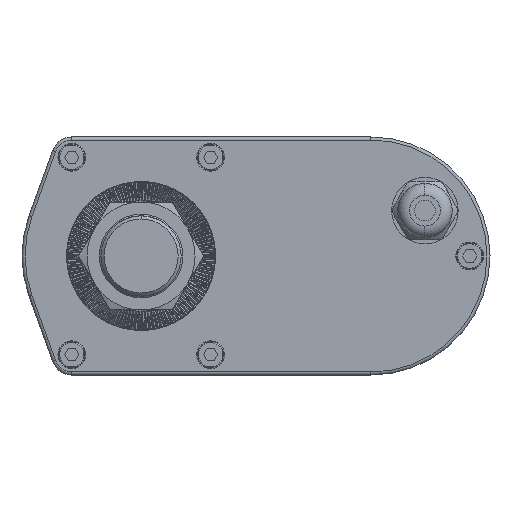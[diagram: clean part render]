
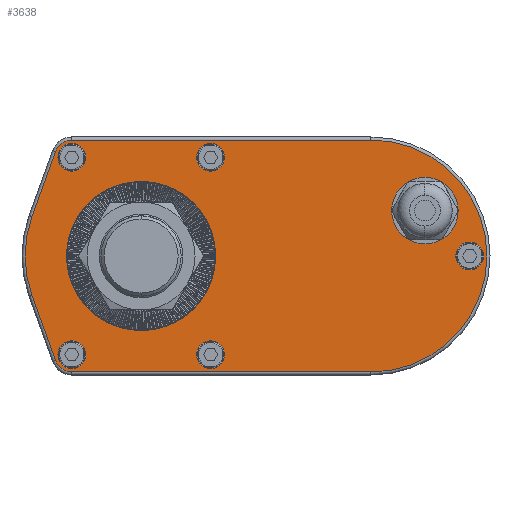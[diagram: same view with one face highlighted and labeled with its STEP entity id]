
A CAD part, left-side view. The second image highlights one B-rep face of the part: STEP entity #3638.
In plain terms, the highlighted planar face has unit normal (-1, 0, 0).
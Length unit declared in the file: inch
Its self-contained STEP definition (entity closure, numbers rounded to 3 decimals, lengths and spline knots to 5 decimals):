
#3638=ADVANCED_FACE('',(#8016,#8017,#8018,#8019,#8020,#8021,#8022,#8023),#8024,.F.);
#8016=FACE_BOUND('',#13456,.T.);
#8017=FACE_BOUND('',#13457,.T.);
#8018=FACE_BOUND('',#13458,.T.);
#8019=FACE_BOUND('',#13459,.T.);
#8020=FACE_BOUND('',#13460,.T.);
#8021=FACE_BOUND('',#13461,.T.);
#8022=FACE_BOUND('',#13462,.T.);
#8023=FACE_OUTER_BOUND('',#13463,.T.);
#8024=PLANE('',#13464);
#13456=EDGE_LOOP('',(#24506,#24507));
#13457=EDGE_LOOP('',(#24508,#24509));
#13458=EDGE_LOOP('',(#24510,#24511));
#13459=EDGE_LOOP('',(#24512,#24513));
#13460=EDGE_LOOP('',(#24514,#24515));
#13461=EDGE_LOOP('',(#24516,#24517));
#13462=EDGE_LOOP('',(#24518,#24519));
#13463=EDGE_LOOP('',(#24520,#24521,#24522,#24523,#24524,#24525,#24526,#24527));
#13464=AXIS2_PLACEMENT_3D('',#24528,#24529,#24530);
#24506=ORIENTED_EDGE('',*,*,#34107,.F.);
#24507=ORIENTED_EDGE('',*,*,#34553,.F.);
#24508=ORIENTED_EDGE('',*,*,#31562,.F.);
#24509=ORIENTED_EDGE('',*,*,#32177,.F.);
#24510=ORIENTED_EDGE('',*,*,#31020,.T.);
#24511=ORIENTED_EDGE('',*,*,#32875,.T.);
#24512=ORIENTED_EDGE('',*,*,#35045,.T.);
#24513=ORIENTED_EDGE('',*,*,#35046,.T.);
#24514=ORIENTED_EDGE('',*,*,#35047,.T.);
#24515=ORIENTED_EDGE('',*,*,#35048,.T.);
#24516=ORIENTED_EDGE('',*,*,#35049,.T.);
#24517=ORIENTED_EDGE('',*,*,#33064,.T.);
#24518=ORIENTED_EDGE('',*,*,#30860,.T.);
#24519=ORIENTED_EDGE('',*,*,#31256,.T.);
#24520=ORIENTED_EDGE('',*,*,#32792,.T.);
#24521=ORIENTED_EDGE('',*,*,#35050,.T.);
#24522=ORIENTED_EDGE('',*,*,#33319,.T.);
#24523=ORIENTED_EDGE('',*,*,#35051,.T.);
#24524=ORIENTED_EDGE('',*,*,#32673,.T.);
#24525=ORIENTED_EDGE('',*,*,#35052,.T.);
#24526=ORIENTED_EDGE('',*,*,#33905,.T.);
#24527=ORIENTED_EDGE('',*,*,#35053,.T.);
#24528=CARTESIAN_POINT('',(0.0,-2.93307,0.0));
#24529=DIRECTION('',(1.0,0.0,0.0));
#24530=DIRECTION('',(0.0,1.0,-0.0));
#30860=EDGE_CURVE('',#36754,#36758,#36760,.T.);
#31020=EDGE_CURVE('',#37030,#37034,#37036,.T.);
#31256=EDGE_CURVE('',#36758,#36754,#37439,.T.);
#31562=EDGE_CURVE('',#37963,#37965,#37966,.F.);
#32177=EDGE_CURVE('',#37965,#37963,#39065,.F.);
#32673=EDGE_CURVE('',#39855,#39853,#39856,.F.);
#32792=EDGE_CURVE('',#40024,#40029,#40031,.F.);
#32875=EDGE_CURVE('',#37034,#37030,#40158,.T.);
#33064=EDGE_CURVE('',#40434,#40432,#40435,.T.);
#33319=EDGE_CURVE('',#40817,#40815,#40818,.F.);
#33905=EDGE_CURVE('',#41647,#41652,#41654,.F.);
#34107=EDGE_CURVE('',#41925,#41927,#41928,.F.);
#34553=EDGE_CURVE('',#41927,#41925,#42496,.F.);
#35045=EDGE_CURVE('',#43104,#43105,#43106,.T.);
#35046=EDGE_CURVE('',#43105,#43104,#43107,.T.);
#35047=EDGE_CURVE('',#43108,#43109,#43110,.T.);
#35048=EDGE_CURVE('',#43109,#43108,#43111,.T.);
#35049=EDGE_CURVE('',#40432,#40434,#43112,.T.);
#35050=EDGE_CURVE('',#40029,#40817,#43113,.F.);
#35051=EDGE_CURVE('',#40815,#39855,#43114,.F.);
#35052=EDGE_CURVE('',#39853,#41647,#43115,.F.);
#35053=EDGE_CURVE('',#41652,#40024,#43116,.F.);
#36754=VERTEX_POINT('',#45047);
#36758=VERTEX_POINT('',#45052);
#36760=CIRCLE('',#45055,0.17717);
#37030=VERTEX_POINT('',#45411);
#37034=VERTEX_POINT('',#45416);
#37036=CIRCLE('',#45419,0.17717);
#37439=CIRCLE('',#45959,0.17717);
#37963=VERTEX_POINT('',#46664);
#37965=VERTEX_POINT('',#46667);
#37966=CIRCLE('',#46668,0.94882);
#39065=CIRCLE('',#47891,0.94882);
#39853=VERTEX_POINT('',#48974);
#39855=VERTEX_POINT('',#48976);
#39856=CIRCLE('',#48977,1.48031);
#40024=VERTEX_POINT('',#49214);
#40029=VERTEX_POINT('',#49219);
#40031=CIRCLE('',#49221,1.48031);
#40158=CIRCLE('',#49401,0.17717);
#40432=VERTEX_POINT('',#49782);
#40434=VERTEX_POINT('',#49785);
#40435=CIRCLE('',#49786,0.17717);
#40815=VERTEX_POINT('',#50359);
#40817=VERTEX_POINT('',#50361);
#40818=CIRCLE('',#50362,0.22047);
#41647=VERTEX_POINT('',#51555);
#41652=VERTEX_POINT('',#51560);
#41654=CIRCLE('',#51562,0.22047);
#41925=VERTEX_POINT('',#51944);
#41927=VERTEX_POINT('',#51947);
#41928=CIRCLE('',#51948,0.3248);
#42496=CIRCLE('',#52767,0.3248);
#43104=VERTEX_POINT('',#53621);
#43105=VERTEX_POINT('',#53622);
#43106=CIRCLE('',#53623,0.17717);
#43107=CIRCLE('',#53624,0.17717);
#43108=VERTEX_POINT('',#53625);
#43109=VERTEX_POINT('',#53626);
#43110=CIRCLE('',#53627,0.17717);
#43111=CIRCLE('',#53628,0.17717);
#43112=CIRCLE('',#53629,0.17717);
#43113=LINE('',#53630,#53631);
#43114=LINE('',#53632,#53633);
#43115=LINE('',#53634,#53635);
#43116=LINE('',#53636,#53637);
#45047=CARTESIAN_POINT('',(0.0,0.88425,-1.43701));
#45052=CARTESIAN_POINT('',(0.0,0.88425,-1.08268));
#45055=AXIS2_PLACEMENT_3D('',#55957,#55958,#55959);
#45411=CARTESIAN_POINT('',(0.0,-4.19449,-0.17717));
#45416=CARTESIAN_POINT('',(0.0,-4.19449,0.17717));
#45419=AXIS2_PLACEMENT_3D('',#56165,#56166,#56167);
#45959=AXIS2_PLACEMENT_3D('',#56454,#56455,#56456);
#46664=CARTESIAN_POINT('',(0.0,0.0,-0.94882));
#46667=CARTESIAN_POINT('',(0.0,0.,0.94882));
#46668=AXIS2_PLACEMENT_3D('',#56833,#56834,#56835);
#47891=AXIS2_PLACEMENT_3D('',#58314,#58315,#58316);
#48974=CARTESIAN_POINT('',(0.0,-2.93307,1.48031));
#48976=CARTESIAN_POINT('',(0.0,-2.93307,-1.48031));
#48977=AXIS2_PLACEMENT_3D('',#58931,#58932,#58933);
#49214=CARTESIAN_POINT('',(0.0,1.39217,0.50319));
#49219=CARTESIAN_POINT('',(0.0,1.39217,-0.50319));
#49221=AXIS2_PLACEMENT_3D('',#59054,#59055,#59056);
#49401=AXIS2_PLACEMENT_3D('',#59145,#59146,#59147);
#49782=CARTESIAN_POINT('',(0.0,-0.8874,1.08268));
#49785=CARTESIAN_POINT('',(0.0,-0.8874,1.43701));
#49786=AXIS2_PLACEMENT_3D('',#59340,#59341,#59342);
#50359=CARTESIAN_POINT('',(0.0,0.88425,-1.48031));
#50361=CARTESIAN_POINT('',(0.0,1.0916,-1.33479));
#50362=AXIS2_PLACEMENT_3D('',#59579,#59580,#59581);
#51555=CARTESIAN_POINT('',(0.0,0.88425,1.48031));
#51560=CARTESIAN_POINT('',(0.0,1.0916,1.33479));
#51562=AXIS2_PLACEMENT_3D('',#60328,#60329,#60330);
#51944=CARTESIAN_POINT('',(0.0,-3.62205,0.25394));
#51947=CARTESIAN_POINT('',(0.0,-3.62205,0.90354));
#51948=AXIS2_PLACEMENT_3D('',#60530,#60531,#60532);
#52767=AXIS2_PLACEMENT_3D('',#60990,#60991,#60992);
#53621=CARTESIAN_POINT('',(0.0,0.88425,1.08268));
#53622=CARTESIAN_POINT('',(0.0,0.88425,1.43701));
#53623=AXIS2_PLACEMENT_3D('',#61545,#61546,#61547);
#53624=AXIS2_PLACEMENT_3D('',#61548,#61549,#61550);
#53625=CARTESIAN_POINT('',(0.0,-0.8874,-1.43701));
#53626=CARTESIAN_POINT('',(0.0,-0.8874,-1.08268));
#53627=AXIS2_PLACEMENT_3D('',#61551,#61552,#61553);
#53628=AXIS2_PLACEMENT_3D('',#61554,#61555,#61556);
#53629=AXIS2_PLACEMENT_3D('',#61557,#61558,#61559);
#53630=CARTESIAN_POINT('',(0.0,1.0916,-1.33479));
#53631=VECTOR('',#61560,39.37008);
#53632=CARTESIAN_POINT('',(0.0,-2.93307,-1.48031));
#53633=VECTOR('',#61561,39.37008);
#53634=CARTESIAN_POINT('',(0.0,0.88425,1.48031));
#53635=VECTOR('',#61562,39.37008);
#53636=CARTESIAN_POINT('',(0.0,1.39217,0.50319));
#53637=VECTOR('',#61563,39.37008);
#55957=CARTESIAN_POINT('',(0.0,0.88425,-1.25984));
#55958=DIRECTION('',(1.0,0.0,0.0));
#55959=DIRECTION('',(0.0,0.0,-1.0));
#56165=CARTESIAN_POINT('',(0.0,-4.19449,0.0));
#56166=DIRECTION('',(1.0,0.0,0.0));
#56167=DIRECTION('',(0.0,0.0,-1.0));
#56454=CARTESIAN_POINT('',(0.0,0.88425,-1.25984));
#56455=DIRECTION('',(1.0,0.0,0.0));
#56456=DIRECTION('',(0.0,0.0,-1.0));
#56833=CARTESIAN_POINT('',(0.0,0.0,0.0));
#56834=DIRECTION('',(1.0,0.0,0.0));
#56835=DIRECTION('',(0.0,0.0,-1.0));
#58314=CARTESIAN_POINT('',(0.0,0.0,0.0));
#58315=DIRECTION('',(1.0,0.0,0.0));
#58316=DIRECTION('',(0.0,0.0,-1.0));
#58931=CARTESIAN_POINT('',(0.0,-2.93307,0.0));
#58932=DIRECTION('',(1.0,0.0,0.0));
#58933=DIRECTION('',(0.0,0.0,-1.0));
#59054=CARTESIAN_POINT('',(0.0,0.,0.0));
#59055=DIRECTION('',(1.0,0.0,0.0));
#59056=DIRECTION('',(0.0,0.0,-1.0));
#59145=CARTESIAN_POINT('',(0.0,-4.19449,0.0));
#59146=DIRECTION('',(1.0,0.0,0.0));
#59147=DIRECTION('',(0.0,0.0,-1.0));
#59340=CARTESIAN_POINT('',(0.0,-0.8874,1.25984));
#59341=DIRECTION('',(1.0,0.0,0.0));
#59342=DIRECTION('',(0.0,0.0,-1.0));
#59579=CARTESIAN_POINT('',(0.0,0.88425,-1.25984));
#59580=DIRECTION('',(1.0,0.0,0.0));
#59581=DIRECTION('',(0.0,0.0,-1.0));
#60328=CARTESIAN_POINT('',(0.0,0.88425,1.25984));
#60329=DIRECTION('',(1.0,0.0,0.0));
#60330=DIRECTION('',(0.0,0.0,-1.0));
#60530=CARTESIAN_POINT('',(0.0,-3.62205,0.57874));
#60531=DIRECTION('',(1.0,0.0,0.0));
#60532=DIRECTION('',(0.0,0.0,-1.0));
#60990=CARTESIAN_POINT('',(0.0,-3.62205,0.57874));
#60991=DIRECTION('',(1.0,0.0,0.0));
#60992=DIRECTION('',(0.0,0.0,-1.0));
#61545=CARTESIAN_POINT('',(0.0,0.88425,1.25984));
#61546=DIRECTION('',(1.0,0.0,0.0));
#61547=DIRECTION('',(0.0,0.0,-1.0));
#61548=CARTESIAN_POINT('',(0.0,0.88425,1.25984));
#61549=DIRECTION('',(1.0,0.0,0.0));
#61550=DIRECTION('',(0.0,0.0,-1.0));
#61551=CARTESIAN_POINT('',(0.0,-0.8874,-1.25984));
#61552=DIRECTION('',(1.0,0.0,0.0));
#61553=DIRECTION('',(0.0,0.0,-1.0));
#61554=CARTESIAN_POINT('',(0.0,-0.8874,-1.25984));
#61555=DIRECTION('',(1.0,0.0,0.0));
#61556=DIRECTION('',(0.0,0.0,-1.0));
#61557=CARTESIAN_POINT('',(0.0,-0.8874,1.25984));
#61558=DIRECTION('',(1.0,0.0,0.0));
#61559=DIRECTION('',(0.0,0.0,-1.0));
#61560=DIRECTION('',(0.0,0.34,0.94));
#61561=DIRECTION('',(0.0,1.0,0.0));
#61562=DIRECTION('',(0.0,-1.0,0.0));
#61563=DIRECTION('',(0.0,-0.34,0.94));
